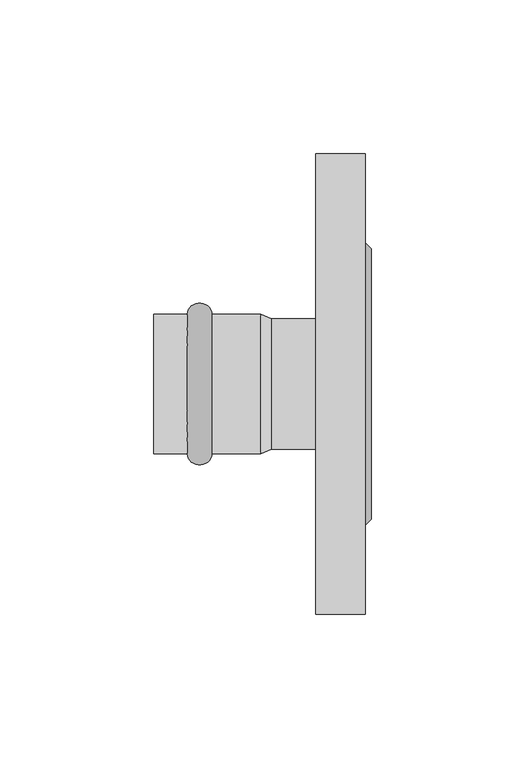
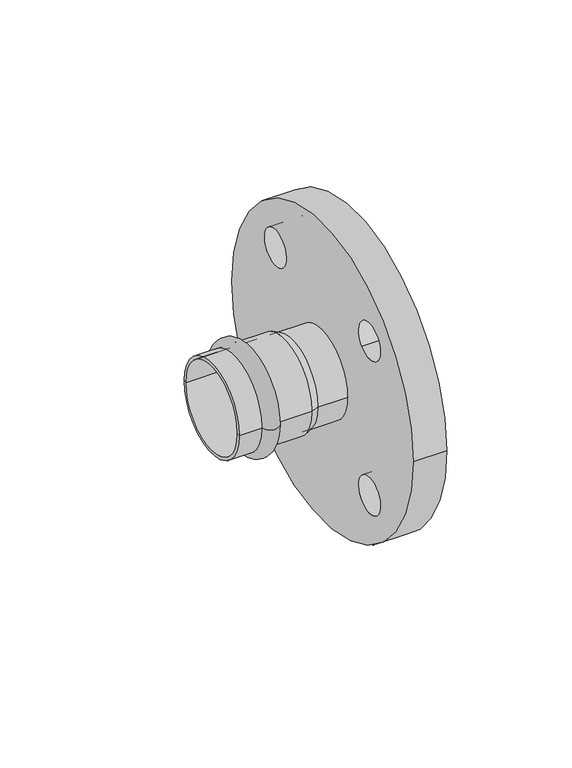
"""IFC4 building model written with IfcOpenShell, lengths in millimetres: pipe fitting geometry, РЕХАУ_Пресс Фланец : 42 x DN40."""

from ifc_helpers import new_model, si_unit, point, frame, frame_2d, origin, origin_2d, place, context, project, spatial, polyline, circle_curve, ellipse_curve, trimmed, segment, composite_curve, outline, extrude, source, transform, mapped, element, save
from ifc_brep_helpers import plane_surface, cylinder_surface, revolved_surface, advanced_brep


def pipe_fitting_d7e706d9(model_context):
    return source(origin(), model_context, "Body", "SolidModel", [
        advanced_brep(
        [(-23.85, 22.75, 0.0), (-23.85, -22.75, 0.0), (-15.85, -22.75, 0.0), (-15.85, 22.75, 0.0)],
        [
            (0, 1, circle_curve(frame((-23.85, 0.0, 0.0), z_axis=(-1.0, 0.0, 0.0), x_axis=(0.0, -1.0, 0.0)), 22.75)),
            (1, 2),
            (2, 3, circle_curve(frame((-15.85, 0.0, 0.0), z_axis=(1.0, 0.0, 0.0), x_axis=(0.0, -1.0, 0.0)), 22.75)),
            (3, 0),
            (1, 0, circle_curve(frame((-23.85, 0.0, 0.0), z_axis=(-1.0, 0.0, 0.0), x_axis=(0.0, -1.0, 0.0)), 22.75)),
            (3, 2, circle_curve(frame((-15.85, 0.0, 0.0), z_axis=(1.0, 0.0, 0.0), x_axis=(0.0, -1.0, 0.0)), 22.75)),
            (2, 1, ellipse_curve(frame((-19.85, -22.75, 0.0), z_axis=(0.0, 0.0, -1.0), x_axis=(-1.0, 0.0, 0.0)), 4.0, 3.6)),
            (0, 3, ellipse_curve(frame((-19.85, 22.75, 0.0), z_axis=(0.0, 0.0, -1.0), x_axis=(-1.0, 0.0, 0.0)), 4.0, 3.6)),
        ],
        [
            revolved_surface(polyline([(-15.85, -22.75, 0.0), (-23.85, -22.75, 0.0)]), (4.15, 0.0, 0.0), (1.0, 0.0, 0.0)),
            revolved_surface(trimmed(ellipse_curve(frame((-19.85, -22.75, 0.0), z_axis=(0.0, 0.0, 1.0), x_axis=(-1.0, 0.0, 0.0)), 4.0, 3.6), [point((-23.85, -22.75, 0.0))], [point((-15.85, -22.75, 0.0))], True, "CARTESIAN"), (4.15, 0.0, 0.0), (1.0, 0.0, 0.0)),
        ],
        [
            (0, [[1, 2, 3, 4]]),
            (0, [[5, -4, 6, -2]]),
            (1, [[-3, 7, -1, 8]]),
            (1, [[-6, -8, -5, -7]]),
        ],
    ),
        advanced_brep(
        [(3.5337785, 21.25, 0.0), (3.5337785, -21.25, 0.0), (0.0, -22.75, 0.0), (0.0, 22.75, 0.0), (-34.85, 21.25, 0.0), (-34.85, -21.25, 0.0), (-34.85, 22.75, 0.0), (-34.85, -22.75, 0.0)],
        [
            (0, 1, circle_curve(frame((3.5337785, 0.0, 0.0), z_axis=(-1.0, 0.0, 0.0), x_axis=(0.0, -1.0, 0.0)), 21.25)),
            (1, 2),
            (2, 3, circle_curve(frame((0.0, 0.0, 0.0), z_axis=(1.0, 0.0, 0.0), x_axis=(0.0, -1.0, 0.0)), 22.75)),
            (3, 0),
            (1, 0, circle_curve(frame((3.5337785, 0.0, 0.0), z_axis=(-1.0, 0.0, 0.0), x_axis=(0.0, -1.0, 0.0)), 21.25)),
            (3, 2, circle_curve(frame((0.0, 0.0, 0.0), z_axis=(1.0, 0.0, 0.0), x_axis=(0.0, -1.0, 0.0)), 22.75)),
            (4, 5, circle_curve(frame((-34.85, 0.0, 0.0), z_axis=(-1.0, 0.0, 0.0), x_axis=(0.0, -1.0, 0.0)), 21.25)),
            (5, 1),
            (0, 4),
            (5, 4, circle_curve(frame((-34.85, 0.0, 0.0), z_axis=(-1.0, 0.0, 0.0), x_axis=(0.0, -1.0, 0.0)), 21.25)),
            (6, 7, circle_curve(frame((-34.85, 0.0, 0.0), z_axis=(-1.0, 0.0, 0.0), x_axis=(0.0, -1.0, 0.0)), 22.75)),
            (7, 5),
            (4, 6),
            (7, 6, circle_curve(frame((-34.85, 0.0, 0.0), z_axis=(-1.0, 0.0, 0.0), x_axis=(0.0, -1.0, 0.0)), 22.75)),
            (2, 7),
            (6, 3),
        ],
        [
            revolved_surface(polyline([(0.0, -22.75, 0.0), (3.5337785, -21.25, 0.0)]), (4.15, 0.0, 0.0), (1.0, 0.0, 0.0)),
            revolved_surface(polyline([(3.5337785, -21.25, 0.0), (-34.85, -21.25, 0.0)]), (4.15, 0.0, 0.0), (1.0, 0.0, 0.0)),
            plane_surface(frame((-34.85, 0.0, 0.0), z_axis=(-1.0, 0.0, 0.0), x_axis=(0.0, -1.0, 0.0))),
            cylinder_surface(frame((4.15, 0.0, 0.0), z_axis=(1.0, 0.0, 0.0), x_axis=(0.0, -1.0, 0.0)), 22.75),
        ],
        [
            (0, [[1, 2, 3, 4]]),
            (0, [[5, -4, 6, -2]]),
            (1, [[7, 8, -1, 9]]),
            (1, [[10, -9, -5, -8]]),
            (2, [[11, 12, -7, 13]]),
            (2, [[14, -13, -10, -12]]),
            (3, [[-3, 15, -11, 16]]),
            (3, [[-6, -16, -14, -15]]),
        ],
    ),
        advanced_brep(
        [(36.0, -44.0, 0.0), (36.0, 44.0, 0.0), (34.0, -46.0, 0.0), (34.0, 46.0, 0.0)],
        [
            (0, 1, circle_curve(frame((36.0, 0.0, 0.0), z_axis=(1.0, 0.0, 0.0), x_axis=(0.0, -1.0, 0.0)), 44.0)),
            (1, 0, circle_curve(frame((36.0, 0.0, 0.0), z_axis=(1.0, 0.0, 0.0), x_axis=(0.0, 1.0, 0.0)), 44.0)),
            (2, 3, circle_curve(frame((34.0, 0.0, 0.0), z_axis=(-1.0, 0.0, 0.0), x_axis=(0.0, 1.0, 0.0)), 46.0)),
            (3, 2, circle_curve(frame((34.0, 0.0, 0.0), z_axis=(-1.0, 0.0, 0.0), x_axis=(0.0, -1.0, 0.0)), 46.0)),
            (3, 1),
            (0, 2),
        ],
        [
            plane_surface(frame((36.0, 0.0, 0.0), z_axis=(1.0, 0.0, 0.0), x_axis=(0.0, 0.0, -1.0))),
            plane_surface(frame((34.0, 0.0, 0.0), z_axis=(-1.0, 0.0, 0.0), x_axis=(0.0, 0.0, -1.0))),
            revolved_surface(polyline([(36.0, -44.0, 0.0), (34.0, -46.0, 0.0)]), (80.0, 0.0, 0.0), (-1.0, 0.0, 0.0)),
            revolved_surface(polyline([(36.0, 44.0, 0.0), (34.0, 46.0, 0.0)]), (80.0, 0.0, 0.0), (-1.0, 0.0, 0.0)),
        ],
        [
            (0, [[1, 2]]),
            (1, [[3, 4]]),
            (2, [[-4, 5, -1, 6]]),
            (3, [[-3, -6, -2, -5]]),
        ],
    ),
        extrude(outline(composite_curve([segment(trimmed(circle_curve(origin_2d(), 75.0), [point((75.0, 0.0))], [point((-75.0, 0.0))], False, "CARTESIAN"), True, "CONTINUOUS"), segment(trimmed(circle_curve(origin_2d(), 75.0), [point((-75.0, 0.0))], [point((75.0, 0.0))], False, "CARTESIAN"), True, "CONTINUOUS")], self_intersect=False), holes=[composite_curve([segment(trimmed(circle_curve(frame_2d((38.890873, 38.890873)), 9.0), [point((32.5269119, 32.5269119))], [point((45.254834, 45.254834))], True, "CARTESIAN"), True, "CONTINUOUS"), segment(trimmed(circle_curve(frame_2d((38.890873, 38.890873)), 9.0), [point((45.254834, 45.254834))], [point((32.5269119, 32.5269119))], True, "CARTESIAN"), True, "CONTINUOUS")], self_intersect=False), composite_curve([segment(trimmed(circle_curve(frame_2d((38.890873, -38.890873)), 9.0), [point((32.5269119, -32.5269119))], [point((45.254834, -45.254834))], True, "CARTESIAN"), True, "CONTINUOUS"), segment(trimmed(circle_curve(frame_2d((38.890873, -38.890873)), 9.0), [point((45.254834, -45.254834))], [point((32.5269119, -32.5269119))], True, "CARTESIAN"), True, "CONTINUOUS")], self_intersect=False), composite_curve([segment(trimmed(circle_curve(frame_2d((-38.890873, -38.890873)), 9.0), [point((-32.5269119, -32.5269119))], [point((-45.254834, -45.254834))], True, "CARTESIAN"), True, "CONTINUOUS"), segment(trimmed(circle_curve(frame_2d((-38.890873, -38.890873)), 9.0), [point((-45.254834, -45.254834))], [point((-32.5269119, -32.5269119))], True, "CARTESIAN"), True, "CONTINUOUS")], self_intersect=False), composite_curve([segment(trimmed(circle_curve(frame_2d((-38.890873, 38.890873)), 9.0), [point((-32.5269119, 32.5269119))], [point((-45.254834, 45.254834))], True, "CARTESIAN"), True, "CONTINUOUS"), segment(trimmed(circle_curve(frame_2d((-38.890873, 38.890873)), 9.0), [point((-45.254834, 45.254834))], [point((-32.5269119, 32.5269119))], True, "CARTESIAN"), True, "CONTINUOUS")], self_intersect=False)]), frame((18.0, 0.0, 0.0), z_axis=(1.0, 0.0, 0.0), x_axis=(0.0, 1.0, 0.0)), (0.0, 0.0, 1.0), 16.0),
        extrude(outline(composite_curve([segment(trimmed(circle_curve(origin_2d(), 21.25), [point((-21.25, 0.0))], [point((21.25, 0.0))], False, "CARTESIAN"), True, "CONTINUOUS"), segment(trimmed(circle_curve(origin_2d(), 21.25), [point((21.25, 0.0))], [point((-21.25, 0.0))], False, "CARTESIAN"), True, "CONTINUOUS")], self_intersect=False)), frame((0.0, 0.0, 0.0), z_axis=(1.0, 0.0, 0.0), x_axis=(0.0, 1.0, 0.0)), (0.0, 0.0, 1.0), 18.0),
    ])


if __name__ == "__main__":
    model = new_model("IFC4")
    model_context = context("Model", 3, world=origin())
    ifc_project = project(units=[si_unit("LENGTHUNIT", "METRE", prefix="MILLI")], contexts=[model_context])
    site = spatial("IfcSite", under=ifc_project)
    building = spatial("IfcBuilding", under=site)
    placement = place(None, origin())
    pipe_fitting_shape = pipe_fitting_d7e706d9(model_context)
    element("IfcPipeFitting", 1, ObjectType="РЕХАУ_Пресс Фланец : 42 x DN40", at=placement, inside=building, context=model_context, shape_type="MappedRepresentation", body=[
        mapped(pipe_fitting_shape, transform((0.0, 0.0, 0.0), x_axis=(1.0, 0.0, 0.0), y_axis=(0.0, 1.0, 0.0), z_axis=(0.0, 0.0, 1.0))),
    ])
    save(model, "model.ifc")
